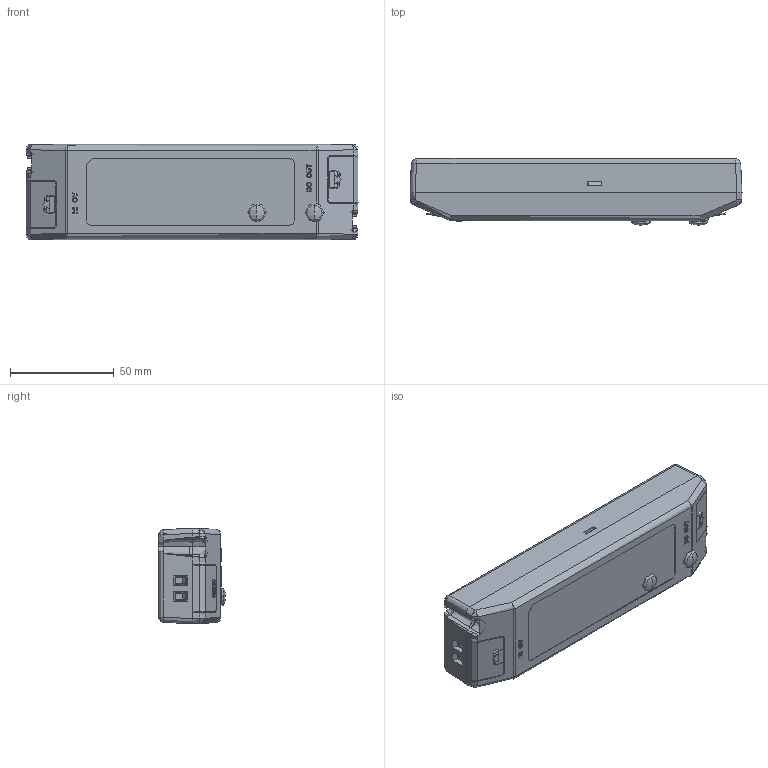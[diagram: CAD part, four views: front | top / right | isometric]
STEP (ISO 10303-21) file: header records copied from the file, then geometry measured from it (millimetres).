
FILE_DESCRIPTION(('OneSpaceDesigner STEP Export'),'2;1');
FILE_NAME('PLC-30.stp','2010-06-08T 8:53:22',(''),(''),'OneSpace Designer STEP processor for AP214 (Solid Model)','OneSpace Designer 13.20 11-May-2005 (C) CoCreate Software GmbH','');
FILE_SCHEMA(('AUTOMOTIVE_DESIGN { 1 0 10303 214 1 1 1 1 }'));
Length unit declared in the file: millimetre
Products named in the file (19): RD0801007.1.1.1; 3P-CONECT.1.1; pcb-2; HS; pin.1.1; hs; A2; ff; GG_ASM; p1; hs1; a2; G; vr.1; pcb; PLC-30-BOT; PLC-30-COVER; RD0801007.1.1; a1
Assembly tree (24 placements, depth 6):
  a1
    RD0801007.1.1
    PLC-30-COVER  x2
    PLC-30-BOT
    pcb
      vr.1  x2
      G
      a2
        hs1
          p1
          pin.1.1  x2
        GG_ASM
          ff
          A2
          hs
            pin.1.1  x2
            HS
      pcb-2
      3P-CONECT.1.1  x2
    RD0801007.1.1.1
Bounding box: 160 x 32.3 x 46 mm (x, y, z)
Volume: 86036.3 mm3; surface area: 80515.5 mm2
Topology: 18 solids, 19 shells, 1534 faces, 4169 edges, 2688 vertices
Faces by surface type: plane 1041, cylinder 234, bspline 154, cone 71, torus 18, sphere 16
Entity records: 45678 total; most frequent: CARTESIAN_POINT 14333, ORIENTED_EDGE 7044, DIRECTION 5398, EDGE_CURVE 3520, VECTOR 2604, LINE 2604, VERTEX_POINT 2280, AXIS2_PLACEMENT_3D 1397
